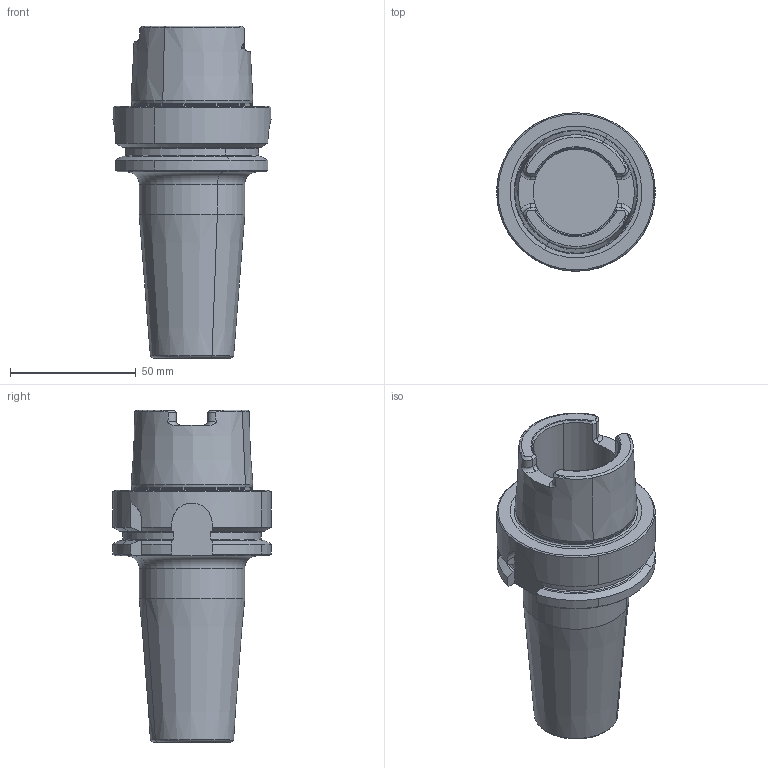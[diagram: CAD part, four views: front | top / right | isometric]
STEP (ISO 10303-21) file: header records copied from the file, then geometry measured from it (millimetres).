
FILE_DESCRIPTION(('CATIA V5 STEP','CAx-IF Rec.Pracs.--- Model Styling and Organization---1.2---2011-12-15'),'2;1');
FILE_NAME('\\nas01\drv1\utils\eitdev\rte\eit\transmagicconvert\db\out\4503906 L.stp','2014-04-01T05:28:47+00:00',('none'),('none'),'CATIA Version 5 Release 21 SP 5 (IN-10)','CATIA V5 STEP AP214','none');
FILE_SCHEMA(('AUTOMOTIVE_DESIGN { 1 0 10303 214 1 1 1 1 }'));
Length unit declared in the file: millimetre
Products named in the file (1): 61026299_0 Holder-Tool HSK A 63 SRKIN 20X100 
Bounding box: 63 x 63 x 132 mm (x, y, z)
Volume: 176853.2 mm3; surface area: 29255.7 mm2
Topology: 1 solids, 1 shells, 134 faces, 345 edges, 216 vertices
Faces by surface type: plane 41, cone 33, cylinder 32, torus 28
Entity records: 4162 total; most frequent: CARTESIAN_POINT 1278, ORIENTED_EDGE 690, DIRECTION 426, EDGE_CURVE 345, AXIS2_PLACEMENT_3D 229, VERTEX_POINT 216, CIRCLE 149, EDGE_LOOP 137
